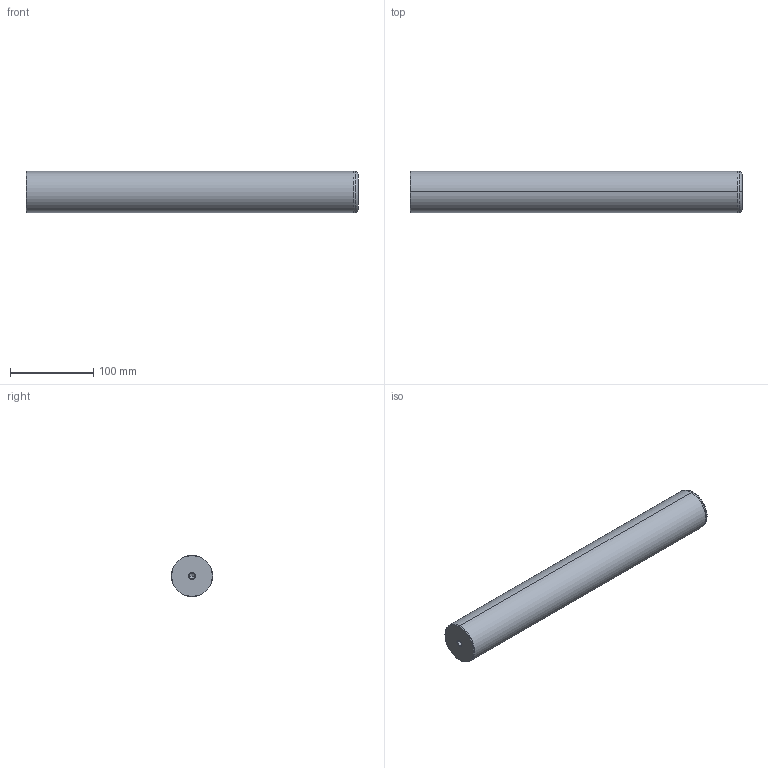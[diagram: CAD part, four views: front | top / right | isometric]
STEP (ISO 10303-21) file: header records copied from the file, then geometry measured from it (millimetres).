
FILE_DESCRIPTION(('CATIA V5 STEP Exchange'),'2;1');
FILE_NAME('C:\Users\Utente\Desktop\IO LAVORO\3D X SITO CF\X SITO\720\720-50x400.stp','2020-12-30T21:38:11+00:00',('none'),('none'),'CATIA Version 5 Release 20 GA (IN-10)','CATIA V5 STEP AP203','none');
FILE_SCHEMA(('CONFIG_CONTROL_DESIGN'));
Length unit declared in the file: millimetre
Products named in the file (1): 720-50x400
Bounding box: 400 x 50 x 50 mm (x, y, z)
Volume: 782853.4 mm3; surface area: 67351.5 mm2
Topology: 1 solids, 1 shells, 22 faces, 62 edges, 40 vertices
Faces by surface type: cone 12, cylinder 6, plane 2, torus 2
Entity records: 806 total; most frequent: CARTESIAN_POINT 229, ORIENTED_EDGE 116, DIRECTION 93, EDGE_CURVE 58, AXIS2_PLACEMENT_3D 54, VERTEX_POINT 40, CIRCLE 31, EDGE_LOOP 24
